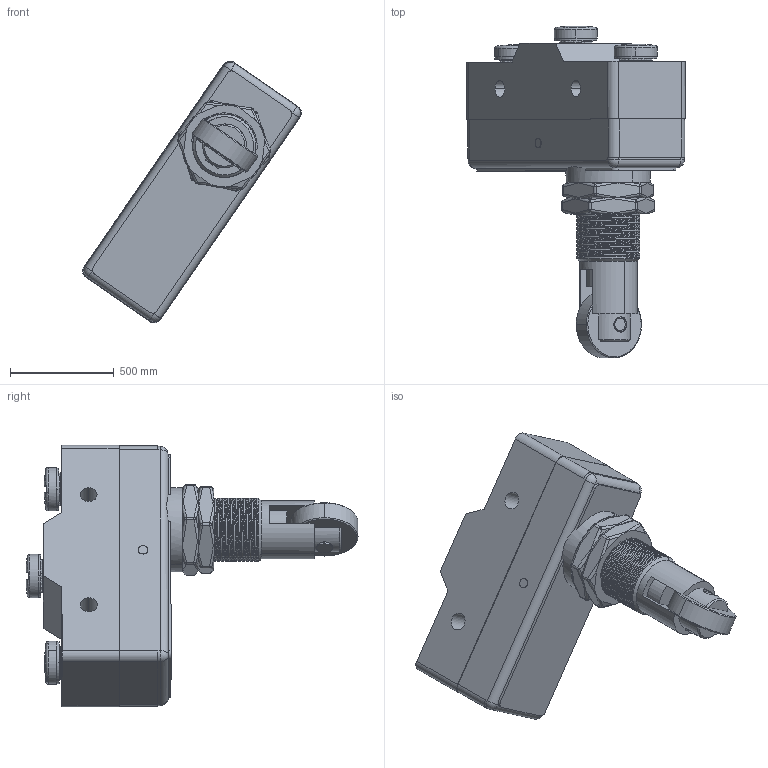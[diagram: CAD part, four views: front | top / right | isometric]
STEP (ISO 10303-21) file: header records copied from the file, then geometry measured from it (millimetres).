
FILE_DESCRIPTION((''),'2;1');
FILE_NAME('TM-1309','2016-08-17T',('ABS'),(''),'PRO/ENGINEER BY PARAMETRIC TECHNOLOGY CORPORATION, 2012360','PRO/ENGINEER BY PARAMETRIC TECHNOLOGY CORPORATION, 2012360','');
FILE_SCHEMA(('CONFIG_CONTROL_DESIGN'));
Products named in the file (1): TM-1309
Bounding box: 1054.33 x 1600.78 x 1260.73 mm (x, y, z)
Volume: 281246096.5 mm3; surface area: 8225346.6 mm2
Topology: 1 solids, 10 shells, 1160 faces, 3254 edges, 2097 vertices
Faces by surface type: cylinder 676, plane 318, bspline 73, sphere 43, torus 39, cone 11
Entity records: 50505 total; most frequent: CARTESIAN_POINT 20918, ORIENTED_EDGE 6434, DIRECTION 6119, EDGE_CURVE 3217, AXIS2_PLACEMENT_3D 2399, VERTEX_POINT 2097, VECTOR 1321, LINE 1321
